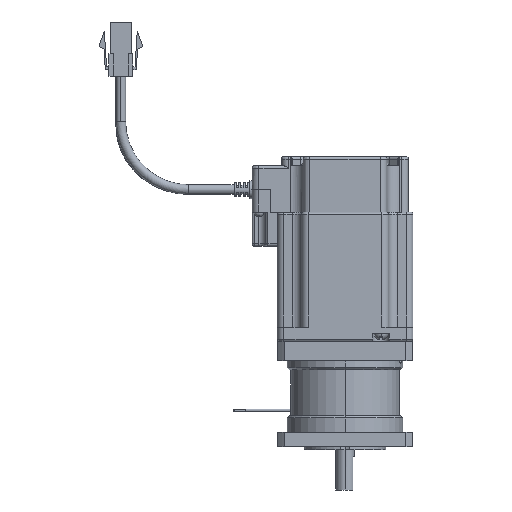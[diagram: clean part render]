
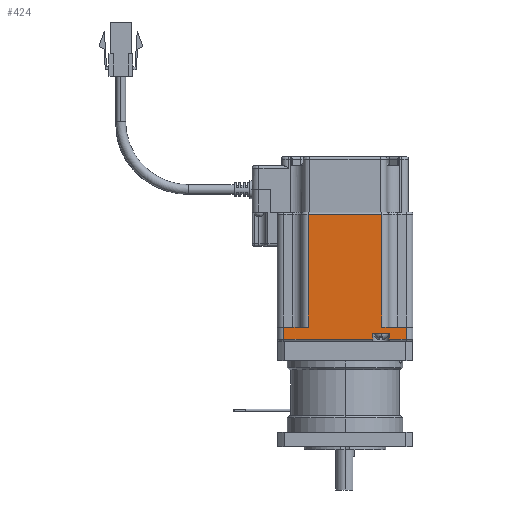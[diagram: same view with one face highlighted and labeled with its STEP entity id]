
A CAD part, left-side view. The second image highlights one B-rep face of the part: STEP entity #424.
In plain terms, the highlighted planar face has unit normal (-1, 0, 0) as drawn and (1, 0, 0) by its records, which use the part's own axes.
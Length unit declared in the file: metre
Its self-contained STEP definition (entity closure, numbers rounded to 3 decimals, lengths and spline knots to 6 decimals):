
#424 = ADVANCED_FACE ( 'NONE', ( #31818 ), #34766, .T. ) ;
#2854 = EDGE_LOOP ( 'NONE', ( #29528, #29529, #29530, #29531, #29532, #29533, #29534, #29535, #29536, #29537, #29538, #29539 ) ) ;
#6055 = CARTESIAN_POINT ( 'NONE',  ( 0.092176, 0.069392, -0.2057 ) ) ;
#6061 = CARTESIAN_POINT ( 'NONE',  ( 0.092176, 0.058692, -0.2057 ) ) ;
#6065 = CARTESIAN_POINT ( 'NONE',  ( 0.092176, 0.105292, -0.2085 ) ) ;
#6067 = CARTESIAN_POINT ( 'NONE',  ( 0.092176, 0.097892, -0.2085 ) ) ;
#6068 = CARTESIAN_POINT ( 'NONE',  ( 0.092176, 0.105292, -0.211 ) ) ;
#6069 = CARTESIAN_POINT ( 'NONE',  ( 0.092176, 0.097892, -0.211 ) ) ;
#6070 = CARTESIAN_POINT ( 'NONE',  ( 0.092176, 0.112692, -0.2057 ) ) ;
#6076 = CARTESIAN_POINT ( 'NONE',  ( 0.092176, 0.101992, -0.2057 ) ) ;
#6096 = CARTESIAN_POINT ( 'NONE',  ( 0.092176, 0.101992, -0.156 ) ) ;
#6099 = CARTESIAN_POINT ( 'NONE',  ( 0.092176, 0.069392, -0.156 ) ) ;
#7727 = LINE ( 'NONE', #8963, #7775 ) ;
#7739 = LINE ( 'NONE', #8918, #7742 ) ;
#7742 = VECTOR ( 'NONE', #8919, 1. ) ;
#7753 = LINE ( 'NONE', #8940, #7756 ) ;
#7756 = VECTOR ( 'NONE', #8941, 1. ) ;
#7757 = LINE ( 'NONE', #8935, #7759 ) ;
#7758 = LINE ( 'NONE', #8947, #7761 ) ;
#7759 = VECTOR ( 'NONE', #8936, 1. ) ;
#7761 = VECTOR ( 'NONE', #8948, 1. ) ;
#7764 = LINE ( 'NONE', #8953, #7767 ) ;
#7767 = VECTOR ( 'NONE', #8954, 1. ) ;
#7768 = LINE ( 'NONE', #8942, #7770 ) ;
#7769 = LINE ( 'NONE', #8959, #7772 ) ;
#7770 = VECTOR ( 'NONE', #8943, 1. ) ;
#7772 = VECTOR ( 'NONE', #8960, 1. ) ;
#7775 = VECTOR ( 'NONE', #8955, 1. ) ;
#8918 = CARTESIAN_POINT ( 'NONE',  ( 0.092176, 0.085692, -0.2057 ) ) ;
#8919 = DIRECTION ( 'NONE',  ( 0., -1., 0. ) ) ;
#8935 = CARTESIAN_POINT ( 'NONE',  ( 0.092176, 0.085692, -0.211 ) ) ;
#8936 = DIRECTION ( 'NONE',  ( 0., 1., 0. ) ) ;
#8940 = CARTESIAN_POINT ( 'NONE',  ( 0.092176, 0.058692, -0.1835 ) ) ;
#8941 = DIRECTION ( 'NONE',  ( 0., 0., -1. ) ) ;
#8942 = CARTESIAN_POINT ( 'NONE',  ( 0.092176, 0.105292, -0.1835 ) ) ;
#8943 = DIRECTION ( 'NONE',  ( 0., 0., -1. ) ) ;
#8947 = CARTESIAN_POINT ( 'NONE',  ( 0.092176, 0.097892, -0.1835 ) ) ;
#8948 = DIRECTION ( 'NONE',  ( 0., 0., 1. ) ) ;
#8953 = CARTESIAN_POINT ( 'NONE',  ( 0.092176, 0.085692, -0.2085 ) ) ;
#8954 = DIRECTION ( 'NONE',  ( 0., 1., 0. ) ) ;
#8955 = DIRECTION ( 'NONE',  ( 0., 0., 1. ) ) ;
#8959 = CARTESIAN_POINT ( 'NONE',  ( 0.092176, 0.085692, -0.211 ) ) ;
#8960 = DIRECTION ( 'NONE',  ( 0., 1., 0. ) ) ;
#8963 = CARTESIAN_POINT ( 'NONE',  ( 0.092176, 0.112692, -0.1835 ) ) ;
#16804 = EDGE_CURVE ( 'NONE', #26278, #26284, #34592, .T. ) ;
#16840 = EDGE_CURVE ( 'NONE', #26307, #26263, #34713, .T. ) ;
#16842 = EDGE_CURVE ( 'NONE', #26304, #26284, #34716, .T. ) ;
#16843 = EDGE_CURVE ( 'NONE', #26307, #26304, #34726, .T. ) ;
#24375 = VERTEX_POINT ( 'NONE', #40577 ) ;
#24388 = VERTEX_POINT ( 'NONE', #40590 ) ;
#26263 = VERTEX_POINT ( 'NONE', #6055 ) ;
#26269 = VERTEX_POINT ( 'NONE', #6061 ) ;
#26273 = VERTEX_POINT ( 'NONE', #6065 ) ;
#26275 = VERTEX_POINT ( 'NONE', #6067 ) ;
#26276 = VERTEX_POINT ( 'NONE', #6068 ) ;
#26277 = VERTEX_POINT ( 'NONE', #6069 ) ;
#26278 = VERTEX_POINT ( 'NONE', #6070 ) ;
#26284 = VERTEX_POINT ( 'NONE', #6076 ) ;
#26304 = VERTEX_POINT ( 'NONE', #6096 ) ;
#26307 = VERTEX_POINT ( 'NONE', #6099 ) ;
#29528 = ORIENTED_EDGE ( 'NONE', *, *, #16804, .T. ) ;
#29529 = ORIENTED_EDGE ( 'NONE', *, *, #16842, .F. ) ;
#29530 = ORIENTED_EDGE ( 'NONE', *, *, #16843, .F. ) ;
#29531 = ORIENTED_EDGE ( 'NONE', *, *, #16840, .T. ) ;
#29532 = ORIENTED_EDGE ( 'NONE', *, *, #37468, .T. ) ;
#29533 = ORIENTED_EDGE ( 'NONE', *, *, #37477, .T. ) ;
#29534 = ORIENTED_EDGE ( 'NONE', *, *, #37479, .T. ) ;
#29535 = ORIENTED_EDGE ( 'NONE', *, *, #37480, .T. ) ;
#29536 = ORIENTED_EDGE ( 'NONE', *, *, #37483, .T. ) ;
#29537 = ORIENTED_EDGE ( 'NONE', *, *, #37485, .T. ) ;
#29538 = ORIENTED_EDGE ( 'NONE', *, *, #37486, .T. ) ;
#29539 = ORIENTED_EDGE ( 'NONE', *, *, #37488, .T. ) ;
#30256 = AXIS2_PLACEMENT_3D ( 'NONE', #34755, #34771, #34773 ) ;
#31818 = FACE_OUTER_BOUND ( 'NONE', #2854, .T. ) ;
#34592 = LINE ( 'NONE', #38920, #34600 ) ;
#34600 = VECTOR ( 'NONE', #38917, 1. ) ;
#34713 = LINE ( 'NONE', #38994, #34722 ) ;
#34716 = LINE ( 'NONE', #39004, #34728 ) ;
#34722 = VECTOR ( 'NONE', #39002, 1. ) ;
#34726 = LINE ( 'NONE', #39008, #34731 ) ;
#34728 = VECTOR ( 'NONE', #39001, 1. ) ;
#34731 = VECTOR ( 'NONE', #39010, 1. ) ;
#34755 = CARTESIAN_POINT ( 'NONE',  ( 0.092176, 0.055692, -0.212 ) ) ;
#34766 = PLANE ( 'NONE',  #30256 ) ;
#34771 = DIRECTION ( 'NONE',  ( 1., 0., 0. ) ) ;
#34773 = DIRECTION ( 'NONE',  ( 0., 1., 0. ) ) ;
#37468 = EDGE_CURVE ( 'NONE', #26263, #26269, #7739, .T. ) ;
#37477 = EDGE_CURVE ( 'NONE', #26269, #24375, #7753, .T. ) ;
#37479 = EDGE_CURVE ( 'NONE', #24375, #26277, #7757, .T. ) ;
#37480 = EDGE_CURVE ( 'NONE', #26277, #26275, #7758, .T. ) ;
#37483 = EDGE_CURVE ( 'NONE', #26275, #26273, #7764, .T. ) ;
#37485 = EDGE_CURVE ( 'NONE', #26273, #26276, #7768, .T. ) ;
#37486 = EDGE_CURVE ( 'NONE', #26276, #24388, #7769, .T. ) ;
#37488 = EDGE_CURVE ( 'NONE', #24388, #26278, #7727, .T. ) ;
#38917 = DIRECTION ( 'NONE',  ( 0., -1., 0. ) ) ;
#38920 = CARTESIAN_POINT ( 'NONE',  ( 0.092176, 0.085692, -0.2057 ) ) ;
#38994 = CARTESIAN_POINT ( 'NONE',  ( 0.092176, 0.069392, -0.1835 ) ) ;
#39001 = DIRECTION ( 'NONE',  ( 0., 0., -1. ) ) ;
#39002 = DIRECTION ( 'NONE',  ( 0., 0., -1. ) ) ;
#39004 = CARTESIAN_POINT ( 'NONE',  ( 0.092176, 0.101992, -0.18035 ) ) ;
#39008 = CARTESIAN_POINT ( 'NONE',  ( 0.092176, 0.085692, -0.156 ) ) ;
#39010 = DIRECTION ( 'NONE',  ( 0., 1., 0. ) ) ;
#40577 = CARTESIAN_POINT ( 'NONE',  ( 0.092176, 0.058692, -0.211 ) ) ;
#40590 = CARTESIAN_POINT ( 'NONE',  ( 0.092176, 0.112692, -0.211 ) ) ;
